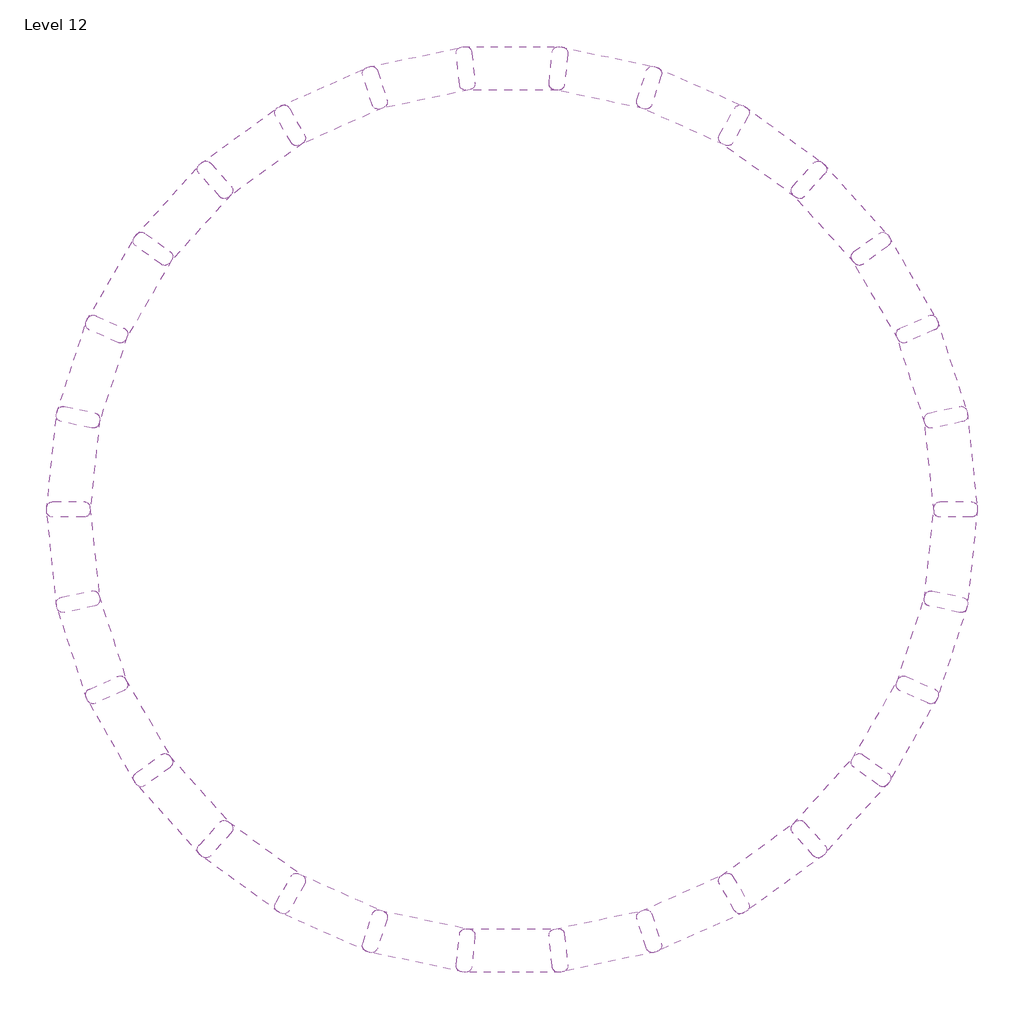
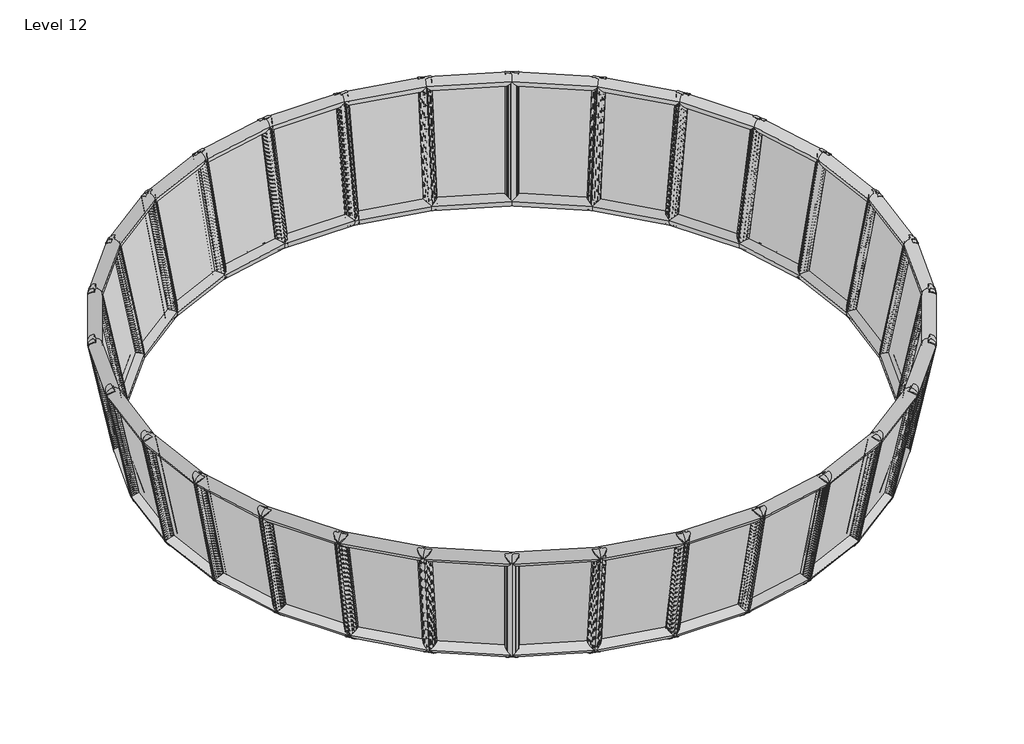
# One storey: 30 plates.
"""IFC4 building model written with IfcOpenShell, lengths in millimetres."""

import ifcopenshell
import ifcopenshell.guid

model = None  # the IFC model being written
_history = None  # IfcOwnerHistory: only IFC2X3 demands one
_inside = {}  # id of a spatial element -> (the spatial element, [elements in it])
_under = {}  # id of a project, library or spatial element -> (it, [spatial elements below it])
_declared = {}  # id of a project -> (the project, [libraries it declares])
_typed = {}  # id of a type object -> (the type object, [elements of that type])
_made_of = {}  # id of a material, layer set ... -> (it, [elements and type objects made of it])


def new_model(schema):
    """Start an empty IFC model of exactly this schema.

    Asked for "IFC4X3", IfcOpenShell would pick the latest addendum, in which some entities
    have other attributes; the version numbers below select the first issue.
    IFC2X3 requires an IfcOwnerHistory on every rooted entity: one is made here for all.
    """
    global model, _history
    if schema == "IFC4X3":
        model = ifcopenshell.file(schema_version=(4, 3, 0, 0))
    else:
        model = ifcopenshell.file(schema=schema)
    _inside.clear()
    _under.clear()
    _declared.clear()
    _typed.clear()
    _made_of.clear()
    _history = None
    if model.schema == "IFC2X3":
        org = make("IfcOrganization", Name="unknown")
        user = make(
            "IfcPersonAndOrganization",
            ThePerson=make("IfcPerson", FamilyName="unknown"),
            TheOrganization=org,
        )
        app = make(
            "IfcApplication",
            ApplicationDeveloper=org,
            Version="unknown",
            ApplicationFullName="unknown",
            ApplicationIdentifier="unknown",
        )
        _history = make(
            "IfcOwnerHistory",
            OwningUser=user,
            OwningApplication=app,
            ChangeAction="ADDED",
            CreationDate=0,
        )
    return model


def make(cls, **values):
    """One entity of the class cls with the attributes given. An attribute that is None is left unset."""
    return model.create_entity(
        cls, **{name: value for name, value in values.items() if value is not None}
    )


def rooted(cls, **values):
    """An entity with a GlobalId (a new one), such as an element, a storey or a relation."""
    return make(cls, GlobalId=ifcopenshell.guid.new(), OwnerHistory=_history, **values)


def si_unit(unit_type, name, prefix=None):
    """IfcSIUnit, for example si_unit("LENGTHUNIT", "METRE", prefix="MILLI")."""
    return make("IfcSIUnit", UnitType=unit_type, Prefix=prefix, Name=name)


def assignment(units):
    """IfcUnitAssignment: the units of a project."""
    return None if units is None else make("IfcUnitAssignment", Units=units)


def point(xyz):
    """IfcCartesianPoint."""
    return None if xyz is None else make("IfcCartesianPoint", Coordinates=xyz)


def direction(xyz):
    """IfcDirection."""
    return None if xyz is None else make("IfcDirection", DirectionRatios=xyz)


def frame(location, z_axis=None, x_axis=None):
    """IfcAxis2Placement3D, a coordinate frame: its origin and axes. An axis left out is left unset."""
    return make(
        "IfcAxis2Placement3D",
        Location=point(location),
        Axis=direction(z_axis),
        RefDirection=direction(x_axis),
    )


def origin():
    """The frame at (0, 0, 0) with its axes left unset."""
    return frame((0.0, 0.0, 0.0))


def origin_with_axes():
    """The frame at (0, 0, 0) with the z axis (0, 0, 1) and the x axis (1, 0, 0) written out."""
    return frame((0.0, 0.0, 0.0), z_axis=(0.0, 0.0, 1.0), x_axis=(1.0, 0.0, 0.0))


def place(relative_to, where):
    """IfcLocalPlacement: puts the frame where relative to a parent placement (None: the world)."""
    return make(
        "IfcLocalPlacement", PlacementRelTo=relative_to, RelativePlacement=where
    )


def context(
    kind, dimensions, precision=None, world=None, true_north=None, identifier=None
):
    """IfcGeometricRepresentationContext, for example the 3D "Model" context."""
    return make(
        "IfcGeometricRepresentationContext",
        ContextIdentifier=identifier,
        ContextType=kind,
        CoordinateSpaceDimension=dimensions,
        Precision=precision,
        WorldCoordinateSystem=world,
        TrueNorth=true_north,
    )


def project(units=None, contexts=None):
    """IfcProject with its units and contexts."""
    return rooted(
        "IfcProject",
        Name="project",
        RepresentationContexts=contexts,
        UnitsInContext=assignment(units),
    )


def spatial(cls, under=None, at=None, **own):
    """A site, building, storey or space (cls), placed at a placement, below another one or the project."""
    s = rooted(cls, ObjectPlacement=at, **own)
    if under is not None:
        _under.setdefault(under.id(), (under, []))[1].append(s)
    return s


def polyline(points):
    """IfcPolyline through the points."""
    return make("IfcPolyline", Points=[point(p) for p in points])


def ellipse_curve(where, semi_axis1, semi_axis2):
    """IfcEllipse in the frame where."""
    return make(
        "IfcEllipse", Position=where, SemiAxis1=semi_axis1, SemiAxis2=semi_axis2
    )


def outline(outer, holes=None, kind="AREA"):
    """IfcArbitraryClosedProfileDef: a profile drawn as a closed curve; with holes, ...WithVoids."""
    if holes is None:
        return make("IfcArbitraryClosedProfileDef", ProfileType=kind, OuterCurve=outer)
    return make(
        "IfcArbitraryProfileDefWithVoids",
        ProfileType=kind,
        OuterCurve=outer,
        InnerCurves=holes,
    )


def extrude(swept, where, along, depth):
    """IfcExtrudedAreaSolid: the profile swept, set in the frame where, extruded along a direction by depth."""
    return make(
        "IfcExtrudedAreaSolid",
        SweptArea=swept,
        Position=where,
        ExtrudedDirection=direction(along),
        Depth=depth,
    )


def shape(context_of_items, identifier, shape_type, items):
    """IfcShapeRepresentation: the items that make up one representation, for example the "Body"."""
    return make(
        "IfcShapeRepresentation",
        ContextOfItems=context_of_items,
        RepresentationIdentifier=identifier,
        RepresentationType=shape_type,
        Items=items,
    )


def source(mapping_origin, context_of_items, identifier, shape_type, items):
    """IfcRepresentationMap: a shape defined once, which mapped items show again and again."""
    return make(
        "IfcRepresentationMap",
        MappingOrigin=mapping_origin,
        MappedRepresentation=shape(context_of_items, identifier, shape_type, items),
    )


def transform(
    local_origin,
    x_axis=None,
    y_axis=None,
    z_axis=None,
    scale=None,
    scale2=None,
    scale3=None,
    uniform=True,
):
    """IfcCartesianTransformationOperator3D, or its non-uniform kind. x_axis, y_axis, z_axis: its Axis1, 2, 3."""
    if uniform:
        return make(
            "IfcCartesianTransformationOperator3D",
            Axis1=direction(x_axis),
            Axis2=direction(y_axis),
            LocalOrigin=point(local_origin),
            Scale=scale,
            Axis3=direction(z_axis),
        )
    return make(
        "IfcCartesianTransformationOperator3DnonUniform",
        Axis1=direction(x_axis),
        Axis2=direction(y_axis),
        LocalOrigin=point(local_origin),
        Scale=scale,
        Axis3=direction(z_axis),
        Scale2=scale2,
        Scale3=scale3,
    )


def mapped(mapping_source, mapping_target):
    """IfcMappedItem: shows the shape of a source again, moved by a transform."""
    return make(
        "IfcMappedItem", MappingSource=mapping_source, MappingTarget=mapping_target
    )


def made_of(thing, what):
    """Note that an element or type object is made of a material, layer set ...; save() writes the relation."""
    if what is not None:
        _made_of.setdefault(what.id(), (what, []))[1].append(thing)
    return thing


def element(
    cls,
    number,
    at=None,
    inside=None,
    cuts=None,
    type_object=None,
    material=None,
    context=None,
    identifier="Body",
    shape_type=None,
    held_by="IfcProductDefinitionShape",
    body=None,
    shapes=None,
    **own,
):
    """One element of the class cls, such as IfcWall. Its Tag is "e" and its number.

    at: its placement. inside: the storey or other place that contains it. cuts: it is an
    opening in that element (IfcRelVoidsElement). A single representation is given by context,
    identifier, shape_type and body (its items); several are given by shapes. held_by: the class
    of the entity that holds the representations. save() writes the other relations.
    """
    e = rooted(cls, Tag="e%d" % number, ObjectPlacement=at, **own)
    if body is not None:
        shapes = [shape(context, identifier, shape_type, body)]
    if shapes is not None:
        e.Representation = make(held_by, Representations=shapes)
    if inside is not None:
        _inside.setdefault(inside.id(), (inside, []))[1].append(e)
    if cuts is not None:
        rooted(
            "IfcRelVoidsElement", RelatingBuildingElement=cuts, RelatedOpeningElement=e
        )
    if type_object is not None:
        _typed.setdefault(type_object.id(), (type_object, []))[1].append(e)
    return made_of(e, material)


def aggregate(whole, parts):
    """IfcRelAggregates: a whole, such as a stair, and the parts it consists of."""
    return rooted("IfcRelAggregates", RelatingObject=whole, RelatedObjects=parts)


def save(model, path):
    """Write the relations noted so far, then the file.

    IfcRelAggregates (storeys below a building ...), IfcRelContainedInSpatialStructure (elements
    in a storey), IfcRelDefinesByType, IfcRelAssociatesMaterial and IfcRelDeclares: one each for
    every whole, place, type object, material and project.
    """
    for whole, parts in _under.values():
        aggregate(whole, parts)
    for where, things in _inside.values():
        rooted(
            "IfcRelContainedInSpatialStructure",
            RelatedElements=things,
            RelatingStructure=where,
        )
    for kind, things in _typed.values():
        rooted("IfcRelDefinesByType", RelatedObjects=things, RelatingType=kind)
    for what, things in _made_of.values():
        rooted("IfcRelAssociatesMaterial", RelatedObjects=things, RelatingMaterial=what)
    for by, libraries in _declared.values():
        rooted("IfcRelDeclares", RelatingContext=by, RelatedDefinitions=libraries)
    model.write(path)


def cylinder_surface(at, radius):
    """IfcCylindricalSurface: all points at the distance radius from the z axis of the frame at."""
    return make("IfcCylindricalSurface", Position=at, Radius=radius)


def advanced_brep(points, edges, surfaces, faces):
    """IfcAdvancedBrep: a solid bounded by faces that lie on surfaces and meet in shared edges.

    An edge is (start, end): straight between two places in points (the first is 0);
    or (start, end, curve); or (start, end, curve, False) where it runs against its curve.
    A face is (place in surfaces, loops), or (place, loops, False) where it looks against
    its surface's normal. A loop lists edges by number (the first is 1), with a minus sign
    where the edge is run from its end to its start. The first loop is the outer one.
    """
    corners = [point(p) for p in points]
    vertices = [make("IfcVertexPoint", VertexGeometry=c) for c in corners]
    made = []
    for start, end, *more in edges:
        made.append(
            make(
                "IfcEdgeCurve",
                EdgeStart=vertices[start],
                EdgeEnd=vertices[end],
                EdgeGeometry=more[0] if more else make("IfcPolyline", Points=[corners[start], corners[end]]),
                SameSense=more[1] if len(more) > 1 else True,
            )
        )
    hull = []
    for where, loops, *sense in faces:
        bounds = []
        for j, loop in enumerate(loops):
            ring = [make("IfcOrientedEdge", EdgeElement=made[abs(k) - 1], Orientation=k > 0) for k in loop]
            bounds.append(
                make(
                    "IfcFaceOuterBound" if j == 0 else "IfcFaceBound",
                    Bound=make("IfcEdgeLoop", EdgeList=ring),
                    Orientation=True,
                )
            )
        hull.append(make("IfcAdvancedFace", Bounds=bounds, FaceSurface=surfaces[where], SameSense=sense[0] if sense else True))
    return make("IfcAdvancedBrep", Outer=make("IfcClosedShell", CfsFaces=hull))


def curtainpanel_curtainpanel_2b252ce4(model_context):
    return source(origin(), model_context, "Body", "SolidModel", [
        extrude(outline(polyline([(2847.3777424, 2847.3777424), (3721.765931, 6810.0353472), (6215.589318, 6312.7798085), (5503.2670087, 2317.807102), (2847.3777424, 2847.3777424)])), origin_with_axes(), (0.0, 0.0, 1.0), 20.0),
        advanced_brep(
        [(2847.3777424, 2847.3777424, -220.0), (2847.3777424, 2847.3777424, 220.0), (5503.2670087, 2317.807102, 220.0), (5503.2670087, 2317.807102, -220.0), (6215.589318, 6312.7798085, 220.0), (6215.589318, 6312.7798085, -220.0), (3721.765931, 6810.0353472, 220.0), (3721.765931, 6810.0353472, -220.0)],
        [
            (0, 1, ellipse_curve(frame((2847.3777424, 2847.3777424, 0.0), z_axis=(0.5466873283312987, -0.8373368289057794, 0.0), x_axis=(-0.8373368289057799, -0.5466873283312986, 0.0)), 314.3437571, 220.0)),
            (1, 2),
            (2, 3, ellipse_curve(frame((5503.2670087, 2317.807102, 0.0), z_axis=(-0.8260316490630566, -0.5636237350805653, 0.0), x_axis=(-0.5636237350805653, 0.8260316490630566, 0.0)), 314.3437571, 220.0)),
            (3, 0),
            (1, 0, ellipse_curve(frame((2847.3777424, 2847.3777424, 0.0), z_axis=(0.5466873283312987, -0.8373368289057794, 0.0), x_axis=(-0.8373368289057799, -0.5466873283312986, 0.0)), 314.3437571, 220.0)),
            (3, 2, ellipse_curve(frame((5503.2670087, 2317.807102, 0.0), z_axis=(-0.8260316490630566, -0.5636237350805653, 0.0), x_axis=(-0.5636237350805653, 0.8260316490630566, 0.0)), 314.3437571, 220.0)),
            (2, 4),
            (4, 5, ellipse_curve(frame((6215.589318, 6312.7798085, 0.0), z_axis=(0.5636237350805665, -0.826031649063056, 0.0), x_axis=(-0.826031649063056, -0.563623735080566, 0.0)), 308.006986, 220.0)),
            (5, 3),
            (5, 4, ellipse_curve(frame((6215.589318, 6312.7798085, 0.0), z_axis=(0.5636237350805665, -0.826031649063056, 0.0), x_axis=(-0.826031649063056, -0.563623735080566, 0.0)), 308.006986, 220.0)),
            (4, 6),
            (6, 7, ellipse_curve(frame((3721.765931, 6810.0353472, 0.0), z_axis=(0.8373368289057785, 0.5466873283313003, 0.0), x_axis=(0.5466873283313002, -0.8373368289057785, 0.0)), 308.006986, 220.0)),
            (7, 5),
            (7, 6, ellipse_curve(frame((3721.765931, 6810.0353472, 0.0), z_axis=(0.8373368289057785, 0.5466873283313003, 0.0), x_axis=(0.5466873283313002, -0.8373368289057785, 0.0)), 308.006986, 220.0)),
            (6, 1),
            (0, 7),
        ],
        [
            cylinder_surface(frame((2847.3777424, 2847.3777424, 0.0), z_axis=(-0.9806946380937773, 0.19554545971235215, 0.0), x_axis=(0.19554545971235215, 0.9806946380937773, 0.0)), 220.0),
            cylinder_surface(frame((5503.2670087, 2317.807102, 0.0), z_axis=(-0.17553613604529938, -0.9844729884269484, 0.0), x_axis=(-0.9844729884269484, 0.17553613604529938, 0.0)), 220.0),
            cylinder_surface(frame((6215.589318, 6312.7798085, 0.0), z_axis=(0.980694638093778, -0.19554545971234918, 0.0), x_axis=(-0.19554545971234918, -0.980694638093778, 0.0)), 220.0),
            cylinder_surface(frame((3721.765931, 6810.0353472, 0.0), z_axis=(0.2154737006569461, 0.9765096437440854, 0.0), x_axis=(0.9765096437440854, -0.2154737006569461, 0.0)), 220.0),
        ],
        [
            (0, [[1, 2, 3, 4]]),
            (0, [[5, -4, 6, -2]]),
            (1, [[-3, 7, 8, 9]]),
            (1, [[-6, -9, 10, -7]]),
            (2, [[-8, 11, 12, 13]]),
            (2, [[-10, -13, 14, -11]]),
            (3, [[-12, 15, -1, 16]]),
            (3, [[-14, -16, -5, -15]]),
        ],
    ),
    ])


model = new_model("IFC4")

# Units and contexts
model_context = context("Model", 3, world=origin())
ifc_project = project(units=[si_unit("LENGTHUNIT", "METRE", prefix="MILLI")], contexts=[model_context])

# Site, building, storey
site = spatial("IfcSite", under=ifc_project)
building = spatial("IfcBuilding", under=site)
storey = spatial("IfcBuildingStorey", under=building, Name="Level 12", Elevation=44000.0)

# Plates
placement = place(None, origin())
curtainpanel_curtainpanel_shape = curtainpanel_curtainpanel_2b252ce4(model_context)
element("IfcPlate", 1, ObjectType="CurtainPanel : CurtainPanel", at=placement, inside=storey, context=model_context, shape_type="MappedRepresentation", body=[
    mapped(curtainpanel_curtainpanel_shape, transform((13522.2319796, -2437.1818918, 55433.4389648), x_axis=(-0.14019387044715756, 0.9713616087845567, -0.19183926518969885), y_axis=(-0.16854860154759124, -0.2143377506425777, -0.9621074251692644), z_axis=(-0.9756726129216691, -0.10254732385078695, 0.19377047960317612))),
])
element("IfcPlate", 2, ObjectType="CurtainPanel : CurtainPanel", at=placement, inside=storey, context=model_context, shape_type="MappedRepresentation", body=[
    mapped(curtainpanel_curtainpanel_shape, transform((13668.1008763, 486.0340307, 55433.4389648), x_axis=(-0.3390877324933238, 0.9209870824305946, -0.19183926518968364), y_axis=(-0.1203020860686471, -0.24469718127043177, -0.9621074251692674), z_axis=(-0.9330310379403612, -0.3031601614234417, 0.19377047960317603))),
])
element("IfcPlate", 3, ObjectType="CurtainPanel : CurtainPanel", at=placement, inside=storey, context=model_context, shape_type="MappedRepresentation", body=[
    mapped(curtainpanel_curtainpanel_shape, transform((13203.0114226, 3375.6985208, 55433.4389648), x_axis=(-0.5231618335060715, 0.8303610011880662, -0.19183926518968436), y_axis=(-0.06679779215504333, -0.2643621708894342, -0.9621074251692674), z_axis=(-0.8496115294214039, -0.49052344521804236, 0.19377047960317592))),
])
element("IfcPlate", 4, ObjectType="CurtainPanel : CurtainPanel", at=placement, inside=storey, context=model_context, shape_type="MappedRepresentation", body=[
    mapped(curtainpanel_curtainpanel_shape, transform((12147.2902592, 6105.5193739, 55433.4389648), x_axis=(-0.6843712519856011, 0.7034441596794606, -0.1918392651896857), y_axis=(-0.010374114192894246, -0.2724732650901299, -0.9621074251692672), z_axis=(-0.7290599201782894, -0.6564485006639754, 0.19377047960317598))),
])
element("IfcPlate", 5, ObjectType="CurtainPanel : CurtainPanel", at=placement, inside=storey, context=model_context, shape_type="MappedRepresentation", body=[
    mapped(curtainpanel_curtainpanel_shape, transform((10547.077467, 8556.1903197, 55433.4389648), x_axis=(-0.8156703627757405, 0.5457834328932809, -0.19183926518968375), y_axis=(0.046502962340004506, -0.26867597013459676, -0.9621074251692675), z_axis=(-0.5766448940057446, -0.7936836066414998, 0.19377047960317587))),
])
element("IfcPlate", 6, ObjectType="CurtainPanel : CurtainPanel", at=placement, inside=storey, context=model_context, shape_type="MappedRepresentation", body=[
    mapped(curtainpanel_curtainpanel_shape, transform((8472.3100237, 10620.6052783, 55433.4389648), x_axis=(-0.9113207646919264, 0.364269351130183, -0.19183926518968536), y_axis=(0.10134763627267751, -0.253136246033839, -0.9621074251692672), z_axis=(-0.399027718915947, -0.8962309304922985, 0.19377047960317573))),
])
element("IfcPlate", 7, ObjectType="CurtainPanel : CurtainPanel", at=placement, inside=storey, context=model_context, shape_type="MappedRepresentation", body=[
    mapped(curtainpanel_curtainpanel_shape, transform((6013.6652224, 12208.5394097, 55433.4389648), x_axis=(-0.9671420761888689, 0.16683495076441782, -0.19183926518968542), y_axis=(0.15176293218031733, -0.22653325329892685, -0.9621074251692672), z_axis=(-0.20397111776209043, -0.9596086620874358, 0.1937704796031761))),
])
element("IfcPlate", 8, ObjectType="CurtainPanel : CurtainPanel", at=placement, inside=storey, context=model_context, shape_type="MappedRepresentation", body=[
    mapped(curtainpanel_curtainpanel_shape, transform((3278.5976388, 13250.5923727, 55433.4389648), x_axis=(-0.9806946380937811, -0.03789093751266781, -0.1918392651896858), y_axis=(0.19554545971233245, -0.19002967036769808, -0.962107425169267), z_axis=(0.0, -0.9810468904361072, 0.19377047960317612))),
])
element("IfcPlate", 9, ObjectType="CurtainPanel : CurtainPanel", at=placement, inside=storey, context=model_context, shape_type="MappedRepresentation", body=[
    mapped(curtainpanel_curtainpanel_shape, transform((386.6428505, 13701.2214525, 55433.4389648), x_axis=(-0.9513861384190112, -0.2409608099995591, -0.1918392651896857), y_axis=(0.23078171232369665, -0.14522087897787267, -0.9621074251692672), z_axis=(0.2039711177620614, -0.9596086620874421, 0.193770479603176))),
])
element("IfcPlate", 10, ObjectType="CurtainPanel : CurtainPanel", at=placement, inside=storey, context=model_context, shape_type="MappedRepresentation", body=[
    mapped(curtainpanel_curtainpanel_shape, transform((-2535.806841, 13540.7319959, 55433.4389648), x_axis=(-0.8804974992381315, -0.43349953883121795, -0.19183926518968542), y_axis=(0.25593169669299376, -0.09406523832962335, -0.9621074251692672), z_axis=(0.39902771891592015, -0.8962309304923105, 0.19377047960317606))),
])
element("IfcPlate", 11, ObjectType="CurtainPanel : CurtainPanel", at=placement, inside=storey, context=model_context, shape_type="MappedRepresentation", body=[
    mapped(curtainpanel_curtainpanel_shape, transform((-5361.0263607, 12776.1381624, 55433.4389648), x_axis=(-0.7711268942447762, -0.6070922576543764, -0.19183926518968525), y_axis=(0.2698962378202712, -0.03879849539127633, -0.9621074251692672), z_axis=(0.5766448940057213, -0.7936836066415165, 0.1937704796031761))),
])
element("IfcPlate", 12, ObjectType="CurtainPanel : CurtainPanel", at=placement, inside=storey, context=model_context, shape_type="MappedRepresentation", body=[
    mapped(curtainpanel_curtainpanel_shape, transform((-10235.5181886, 9593.2448442, 55433.4389648), x_axis=(-0.4575328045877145, -0.8682519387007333, -0.19183926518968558), y_axis=(0.26234325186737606, 0.07433250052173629, -0.962107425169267), z_axis=(0.8496115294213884, -0.4905234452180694, 0.19377047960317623))),
])
element("IfcPlate", 13, ObjectType="CurtainPanel : CurtainPanel", at=placement, inside=storey, context=model_context, shape_type="MappedRepresentation", body=[
    mapped(curtainpanel_curtainpanel_shape, transform((-7965.5400587, 11440.8563712, 55433.4389648), x_axis=(-0.6280543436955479, -0.7541521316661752, -0.1918392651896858), y_axis=(0.2720650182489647, 0.018163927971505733, -0.962107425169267), z_axis=(0.7290599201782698, -0.6564485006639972, 0.19377047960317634))),
])
element("IfcPlate", 14, ObjectType="CurtainPanel : CurtainPanel", at=placement, inside=storey, context=model_context, shape_type="MappedRepresentation", body=[
    mapped(curtainpanel_curtainpanel_shape, transform((-12071.7518135, 7314.0530709, 55433.4389648), x_axis=(-0.2670148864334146, -0.9444049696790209, -0.19183926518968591), y_axis=(0.24115582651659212, 0.1272523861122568, -0.962107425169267), z_axis=(0.9330310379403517, -0.3031601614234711, 0.19377047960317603))),
])
element("IfcPlate", 15, ObjectType="CurtainPanel : CurtainPanel", at=placement, inside=storey, context=model_context, shape_type="MappedRepresentation", body=[
    mapped(curtainpanel_curtainpanel_shape, transform((-13393.9887128, 4702.8926685, 55433.4389648), x_axis=(-0.0648271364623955, -0.9792829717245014, -0.19183926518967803), y_axis=(0.2094287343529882, 0.17461073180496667, -0.9621074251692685), z_axis=(0.9756726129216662, -0.10254732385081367, 0.19377047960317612))),
])
element("IfcPlate", 16, ObjectType="CurtainPanel : CurtainPanel", at=placement, inside=storey, context=model_context, shape_type="MappedRepresentation", body=[
    mapped(curtainpanel_curtainpanel_shape, transform((-14144.4407893, 1873.8838764, 55433.4389648), x_axis=(0.14019387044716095, -0.9713616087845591, -0.1918392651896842), y_axis=(0.16854860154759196, 0.21433775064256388, -0.9621074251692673), z_axis=(0.9756726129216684, 0.10254732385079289, 0.193770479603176))),
])
element("IfcPlate", 17, ObjectType="CurtainPanel : CurtainPanel", at=placement, inside=storey, context=model_context, shape_type="MappedRepresentation", body=[
    mapped(curtainpanel_curtainpanel_shape, transform((-14290.3096859, -1049.3320462, 55433.4389648), x_axis=(0.3390877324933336, -0.9209870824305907, -0.19183926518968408), y_axis=(0.12030208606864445, 0.24469718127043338, -0.9621074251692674), z_axis=(0.9330310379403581, 0.30316016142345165, 0.1937704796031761))),
])
element("IfcPlate", 18, ObjectType="CurtainPanel : CurtainPanel", at=placement, inside=storey, context=model_context, shape_type="MappedRepresentation", body=[
    mapped(curtainpanel_curtainpanel_shape, transform((-13825.2202322, -3938.9965362, 55433.4389648), x_axis=(0.5231618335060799, -0.8303610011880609, -0.19183926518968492), y_axis=(0.06679779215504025, 0.26436217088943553, -0.9621074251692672), z_axis=(0.8496115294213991, 0.490523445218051, 0.19377047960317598))),
])
element("IfcPlate", 19, ObjectType="CurtainPanel : CurtainPanel", at=placement, inside=storey, context=model_context, shape_type="MappedRepresentation", body=[
    mapped(curtainpanel_curtainpanel_shape, transform((-12769.4990688, -6668.8173893, 55433.4389648), x_axis=(0.6843712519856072, -0.7034441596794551, -0.19183926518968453), y_axis=(0.010374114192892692, 0.27247326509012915, -0.9621074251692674), z_axis=(0.7290599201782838, 0.6564485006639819, 0.19377047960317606))),
])
element("IfcPlate", 20, ObjectType="CurtainPanel : CurtainPanel", at=placement, inside=storey, context=model_context, shape_type="MappedRepresentation", body=[
    mapped(curtainpanel_curtainpanel_shape, transform((-11169.2862767, -9119.4883351, 55433.4389648), x_axis=(0.8156703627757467, -0.5457834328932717, -0.19183926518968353), y_axis=(-0.04650296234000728, 0.2686759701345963, -0.9621074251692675), z_axis=(0.5766448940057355, 0.7936836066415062, 0.19377047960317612))),
])
element("IfcPlate", 21, ObjectType="CurtainPanel : CurtainPanel", at=placement, inside=storey, context=model_context, shape_type="MappedRepresentation", body=[
    mapped(curtainpanel_curtainpanel_shape, transform((-9094.5188334, -11183.9032937, 55433.4389648), x_axis=(0.9113207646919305, -0.3642693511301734, -0.1918392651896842), y_axis=(-0.10134763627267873, 0.25313624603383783, -0.9621074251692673), z_axis=(0.39902771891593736, 0.8962309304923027, 0.1937704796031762))),
])
element("IfcPlate", 22, ObjectType="CurtainPanel : CurtainPanel", at=placement, inside=storey, context=model_context, shape_type="MappedRepresentation", body=[
    mapped(curtainpanel_curtainpanel_shape, transform((-6635.874032, -12771.8374251, 55433.4389648), x_axis=(0.9671420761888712, -0.16683495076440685, -0.1918392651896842), y_axis=(-0.15176293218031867, 0.22653325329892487, -0.9621074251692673), z_axis=(0.2039711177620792, 0.9596086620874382, 0.1937704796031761))),
])
element("IfcPlate", 23, ObjectType="CurtainPanel : CurtainPanel", at=placement, inside=storey, context=model_context, shape_type="MappedRepresentation", body=[
    mapped(curtainpanel_curtainpanel_shape, transform((-3900.8064484, -13813.8903881, 55433.4389648), x_axis=(0.9806946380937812, 0.03789093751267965, -0.19183926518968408), y_axis=(-0.19554545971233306, 0.19002967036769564, -0.9621074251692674), z_axis=(0.0, 0.9810468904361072, 0.19377047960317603))),
])
element("IfcPlate", 24, ObjectType="CurtainPanel : CurtainPanel", at=placement, inside=storey, context=model_context, shape_type="MappedRepresentation", body=[
    mapped(curtainpanel_curtainpanel_shape, transform((-1008.8516601, -14264.5194679, 55433.4389648), x_axis=(0.9513861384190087, 0.24096080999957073, -0.1918392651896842), y_axis=(-0.23078171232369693, 0.14522087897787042, -0.9621074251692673), z_axis=(-0.2039711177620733, 0.9596086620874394, 0.1937704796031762))),
])
element("IfcPlate", 25, ObjectType="CurtainPanel : CurtainPanel", at=placement, inside=storey, context=model_context, shape_type="MappedRepresentation", body=[
    mapped(curtainpanel_curtainpanel_shape, transform((1913.5980314, -14104.0300114, 55433.4389648), x_axis=(0.8804974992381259, 0.4334995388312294, -0.19183926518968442), y_axis=(-0.255931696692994, 0.0940652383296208, -0.9621074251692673), z_axis=(-0.3990277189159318, 0.8962309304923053, 0.19377047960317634))),
])
element("IfcPlate", 26, ObjectType="CurtainPanel : CurtainPanel", at=placement, inside=storey, context=model_context, shape_type="MappedRepresentation", body=[
    mapped(curtainpanel_curtainpanel_shape, transform((4738.8175511, -13339.4361778, 55433.4389648), x_axis=(0.771126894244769, 0.6070922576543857, -0.19183926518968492), y_axis=(-0.2698962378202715, 0.03879849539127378, -0.9621074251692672), z_axis=(-0.5766448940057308, 0.7936836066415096, 0.19377047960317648))),
])
element("IfcPlate", 27, ObjectType="CurtainPanel : CurtainPanel", at=placement, inside=storey, context=model_context, shape_type="MappedRepresentation", body=[
    mapped(curtainpanel_curtainpanel_shape, transform((9613.309379, -10156.5428597, 55433.4389648), x_axis=(0.45753280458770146, 0.8682519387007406, -0.19183926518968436), y_axis=(-0.2623432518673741, -0.07433250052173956, -0.9621074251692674), z_axis=(-0.8496115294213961, 0.49052344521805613, 0.1937704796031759))),
])
element("IfcPlate", 28, ObjectType="CurtainPanel : CurtainPanel", at=placement, inside=storey, context=model_context, shape_type="MappedRepresentation", body=[
    mapped(curtainpanel_curtainpanel_shape, transform((7343.3312491, -12004.1543867, 55433.4389648), x_axis=(0.6280543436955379, 0.7541521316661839, -0.19183926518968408), y_axis=(-0.27206501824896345, -0.018163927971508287, -0.9621074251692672), z_axis=(-0.729059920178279, 0.6564485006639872, 0.19377047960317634))),
])
element("IfcPlate", 29, ObjectType="CurtainPanel : CurtainPanel", at=placement, inside=storey, context=model_context, shape_type="MappedRepresentation", body=[
    mapped(curtainpanel_curtainpanel_shape, transform((11449.5430039, -7877.3510863, 55433.4389648), x_axis=(0.2670148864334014, 0.9444049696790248, -0.1918392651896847), y_axis=(-0.2411558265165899, -0.12725238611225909, -0.9621074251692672), z_axis=(-0.9330310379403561, 0.3031601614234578, 0.19377047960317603))),
])
element("IfcPlate", 30, ObjectType="CurtainPanel : CurtainPanel", at=placement, inside=storey, context=model_context, shape_type="MappedRepresentation", body=[
    mapped(curtainpanel_curtainpanel_shape, transform((12771.7799032, -5266.1906839, 55433.4389648), x_axis=(0.06482713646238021, 0.9792829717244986, -0.19183926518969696), y_axis=(-0.20942873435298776, -0.17461073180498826, -0.9621074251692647), z_axis=(-0.9756726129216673, 0.10254732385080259, 0.19377047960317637))),
])

save(model, "model.ifc")
